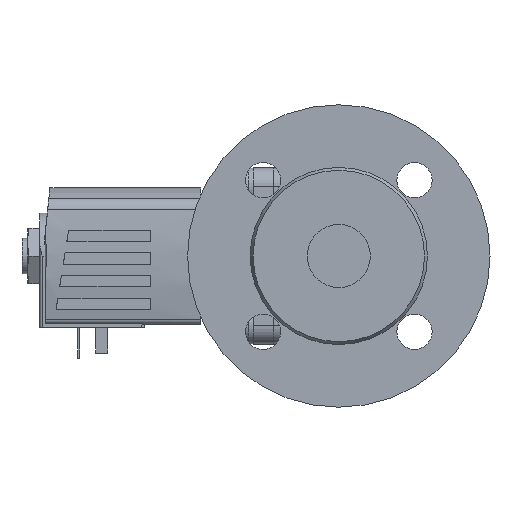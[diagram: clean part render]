
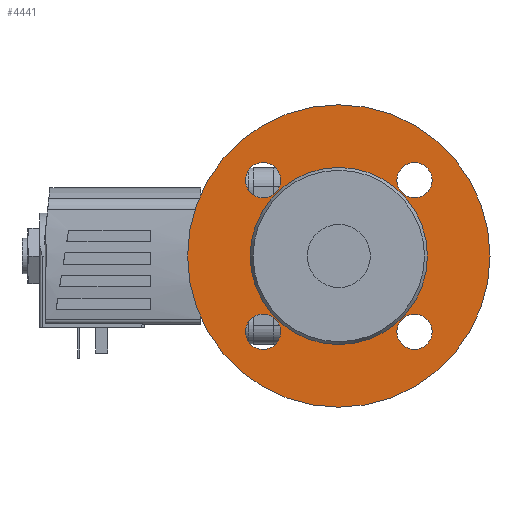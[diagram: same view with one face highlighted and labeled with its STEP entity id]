
A CAD part, left-side view. The second image highlights one B-rep face of the part: STEP entity #4441.
In plain terms, the highlighted planar face has unit normal (-1, 0, 0).
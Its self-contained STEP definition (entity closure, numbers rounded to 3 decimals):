
#874=PLANE('',#5472);
#1137=CIRCLE('',#5470,35.155);
#1139=CIRCLE('',#5473,60.);
#1140=CIRCLE('',#5474,7.);
#1141=CIRCLE('',#5475,7.);
#1142=CIRCLE('',#5476,7.);
#1143=CIRCLE('',#5477,7.);
#1678=ORIENTED_EDGE('',*,*,#2756,.T.);
#1679=ORIENTED_EDGE('',*,*,#2757,.T.);
#1680=ORIENTED_EDGE('',*,*,#2758,.T.);
#1681=ORIENTED_EDGE('',*,*,#2759,.T.);
#1682=ORIENTED_EDGE('',*,*,#2760,.T.);
#1683=ORIENTED_EDGE('',*,*,#2754,.F.);
#2754=EDGE_CURVE('',#3327,#3327,#1137,.T.);
#2756=EDGE_CURVE('',#3329,#3329,#1139,.T.);
#2757=EDGE_CURVE('',#3330,#3330,#1140,.F.);
#2758=EDGE_CURVE('',#3331,#3331,#1141,.F.);
#2759=EDGE_CURVE('',#3332,#3332,#1142,.F.);
#2760=EDGE_CURVE('',#3333,#3333,#1143,.F.);
#3327=VERTEX_POINT('',#7688);
#3329=VERTEX_POINT('',#7693);
#3330=VERTEX_POINT('',#7695);
#3331=VERTEX_POINT('',#7697);
#3332=VERTEX_POINT('',#7699);
#3333=VERTEX_POINT('',#7701);
#3766=EDGE_LOOP('',(#1678));
#3767=EDGE_LOOP('',(#1679));
#3768=EDGE_LOOP('',(#1680));
#3769=EDGE_LOOP('',(#1681));
#3770=EDGE_LOOP('',(#1682));
#3771=EDGE_LOOP('',(#1683));
#4104=FACE_BOUND('',#3766,.T.);
#4105=FACE_BOUND('',#3767,.T.);
#4106=FACE_BOUND('',#3768,.T.);
#4107=FACE_BOUND('',#3769,.T.);
#4108=FACE_BOUND('',#3770,.T.);
#4109=FACE_BOUND('',#3771,.T.);
#4441=ADVANCED_FACE('',(#4104,#4105,#4106,#4107,#4108,#4109),#874,.T.);
#5470=AXIS2_PLACEMENT_3D('',#7687,#6186,#6187);
#5472=AXIS2_PLACEMENT_3D('',#7691,#6190,#6191);
#5473=AXIS2_PLACEMENT_3D('',#7692,#6192,#6193);
#5474=AXIS2_PLACEMENT_3D('',#7694,#6194,#6195);
#5475=AXIS2_PLACEMENT_3D('',#7696,#6196,#6197);
#5476=AXIS2_PLACEMENT_3D('',#7698,#6198,#6199);
#5477=AXIS2_PLACEMENT_3D('',#7700,#6200,#6201);
#6186=DIRECTION('',(-1.,0.,0.));
#6187=DIRECTION('',(0.,0.,1.));
#6190=DIRECTION('',(-1.,0.,0.));
#6191=DIRECTION('',(0.,0.,1.));
#6192=DIRECTION('',(-1.,0.,0.));
#6193=DIRECTION('',(0.,0.,1.));
#6194=DIRECTION('',(-1.,0.,0.));
#6195=DIRECTION('',(0.,0.,1.));
#6196=DIRECTION('',(-1.,0.,0.));
#6197=DIRECTION('',(0.,0.,1.));
#6198=DIRECTION('',(-1.,0.,0.));
#6199=DIRECTION('',(0.,0.,1.));
#6200=DIRECTION('',(-1.,0.,0.));
#6201=DIRECTION('',(0.,0.,1.));
#7687=CARTESIAN_POINT('',(-78.,0.,0.));
#7688=CARTESIAN_POINT('',(-78.,0.,35.155));
#7691=CARTESIAN_POINT('',(-78.,-35.155,0.));
#7692=CARTESIAN_POINT('',(-78.,0.,0.));
#7693=CARTESIAN_POINT('',(-78.,0.,60.));
#7694=CARTESIAN_POINT('',(-78.,30.052,30.052));
#7695=CARTESIAN_POINT('',(-78.,30.052,37.052));
#7696=CARTESIAN_POINT('',(-78.,30.052,-30.052));
#7697=CARTESIAN_POINT('',(-78.,30.052,-23.052));
#7698=CARTESIAN_POINT('',(-78.,-30.052,-30.052));
#7699=CARTESIAN_POINT('',(-78.,-30.052,-23.052));
#7700=CARTESIAN_POINT('',(-78.,-30.052,30.052));
#7701=CARTESIAN_POINT('',(-78.,-30.052,37.052));
